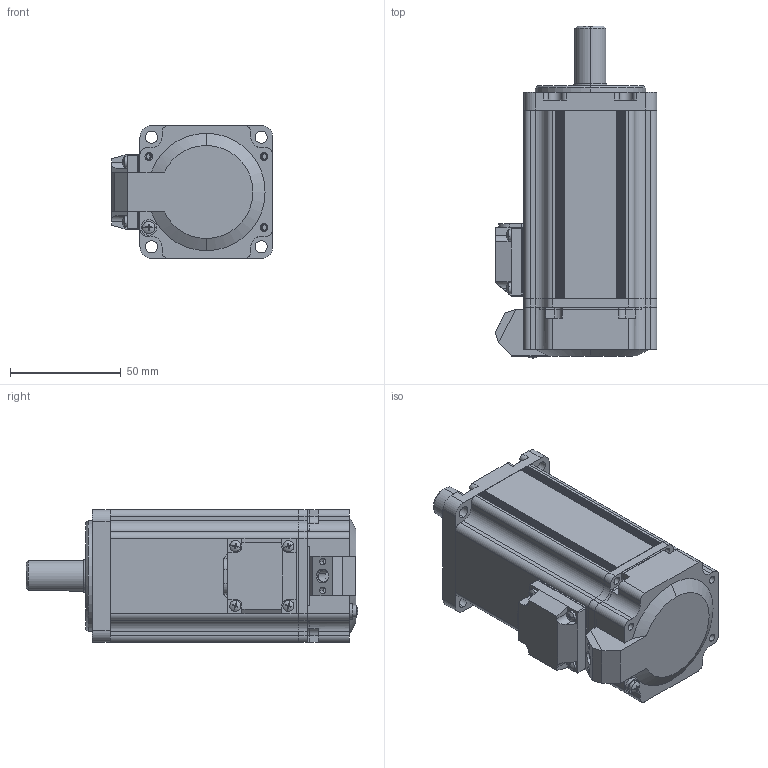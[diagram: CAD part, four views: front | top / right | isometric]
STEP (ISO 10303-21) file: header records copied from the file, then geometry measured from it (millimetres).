
FILE_DESCRIPTION (( 'STEP AP214' ), '1' );
FILE_NAME ('MS6H-60C30B2-20P4.STEP', '2020-08-13T06:56:05', ( '' ), ( '' ), 'SwSTEP 2.0', 'SolidWorks 2016', '' );
FILE_SCHEMA (( 'AUTOMOTIVE_DESIGN' ));
Length unit declared in the file: millimetre
Products named in the file (1): MS6H-60C30B2-20P4
Bounding box: 73 x 149.89 x 60 mm (x, y, z)
Surface area: 46507.2 mm2 (no closed solid volume)
Topology: 0 solids, 19 shells, 435 faces, 1497 edges, 1049 vertices
Faces by surface type: cylinder 238, plane 176, cone 11, sphere 10
Entity records: 21394 total; most frequent: DIRECTION 3110, CARTESIAN_POINT 3032, ORIENTED_EDGE 2538, EDGE_CURVE 1497, AXIS2_PLACEMENT_3D 1185, VERTEX_POINT 1049, CIRCLE 749, VECTOR 740
